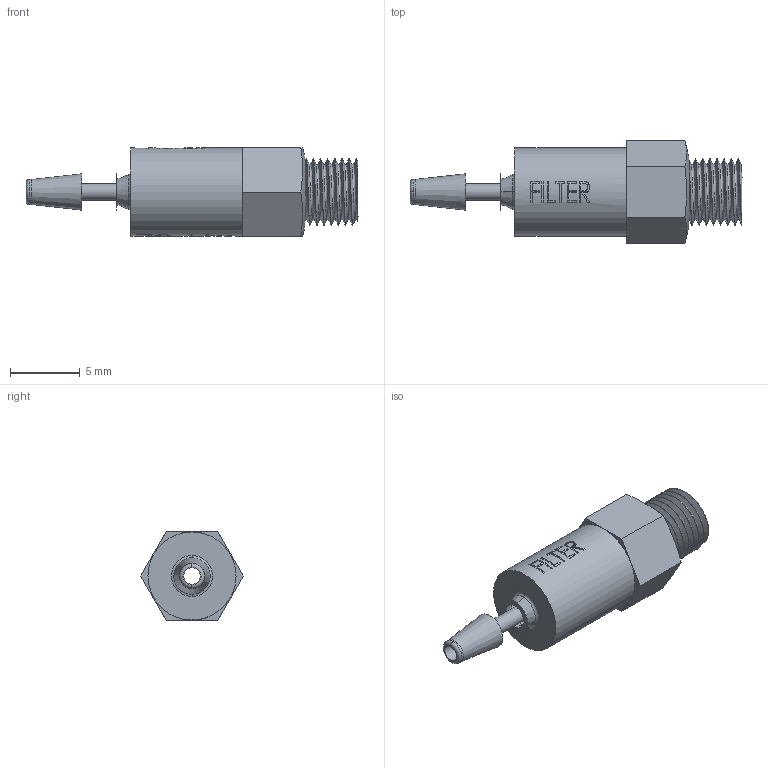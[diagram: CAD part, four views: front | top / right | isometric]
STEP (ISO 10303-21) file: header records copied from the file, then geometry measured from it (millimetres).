
FILE_DESCRIPTION(/* description */ ('SolidWorks IGES file using NURBS representation for surfaces '),/* implementation_level */ '2;1');
FILE_NAME(/* name */ 'K:\Normteile INVENTOR\Air-Logic\Filters\F-960-73-B80.IGS.ipt.stp',/* time_stamp */ '2020-05-27T10:40:06+02:00',/* author */ ('amarsh'),/* organization */ (''),/* preprocessor_version */ 'ST-DEVELOPER v18',/* originating_system */ 'Autodesk Inventor 2020',/* authorisation */ '');
FILE_SCHEMA (('AUTOMOTIVE_DESIGN { 1 0 10303 214 3 1 1 }'));
Length unit declared in the file: millimetre
Products named in the file (1): F-960-73-B80.IGS
Bounding box: 23.75 x 7.33 x 6.35 mm (x, y, z)
Volume: 436.3 mm3; surface area: 598.2 mm2
Topology: 1 solids, 1 shells, 173 faces, 471 edges, 317 vertices
Faces by surface type: plane 81, bspline 48, cylinder 35, cone 5, torus 4
Full cylindrical faces by diameter (mm): 1.17 x1, 1.8 x1, 2.36 x1, 4.75 x7, 6.3 x1
Entity records: 10714 total; most frequent: CARTESIAN_POINT 6521, ORIENTED_EDGE 942, DIRECTION 739, EDGE_CURVE 471, VERTEX_POINT 317, AXIS2_PLACEMENT_3D 257, LINE 225, VECTOR 225
